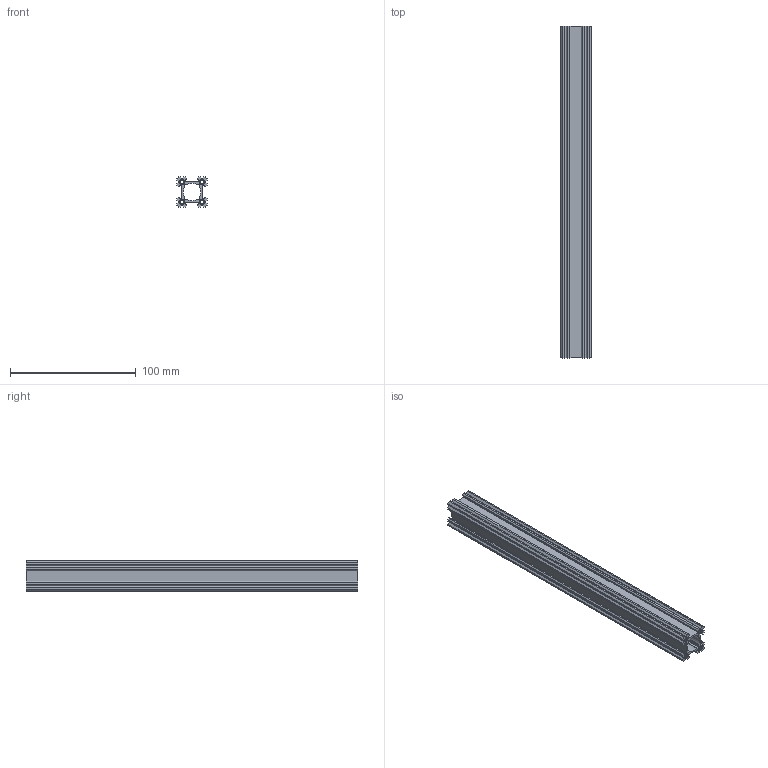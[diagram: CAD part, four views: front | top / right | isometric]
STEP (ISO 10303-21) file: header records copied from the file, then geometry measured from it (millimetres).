
FILE_DESCRIPTION (( 'STEP AP203' ), '1' );
FILE_NAME ('1109-0016-0264.STEP', '2017-05-15T21:51:29', ( '' ), ( '' ), 'SwSTEP 2.0', 'SolidWorks 2016', '' );
FILE_SCHEMA (( 'CONFIG_CONTROL_DESIGN' ));
Products named in the file (1): 1109-0016-0264
Bounding box: 24 x 264 x 24 mm (x, y, z)
Volume: 52128.3 mm3; surface area: 65692.6 mm2
Topology: 1 solids, 1 shells, 807 faces, 2405 edges, 1600 vertices
Faces by surface type: cylinder 683, plane 88, cone 20, bspline 16
Entity records: 53534 total; most frequent: CARTESIAN_POINT 35507, ORIENTED_EDGE 4810, DIRECTION 2779, EDGE_CURVE 2405, VERTEX_POINT 1600, AXIS2_PLACEMENT_3D 928, LINE 923, VECTOR 923
